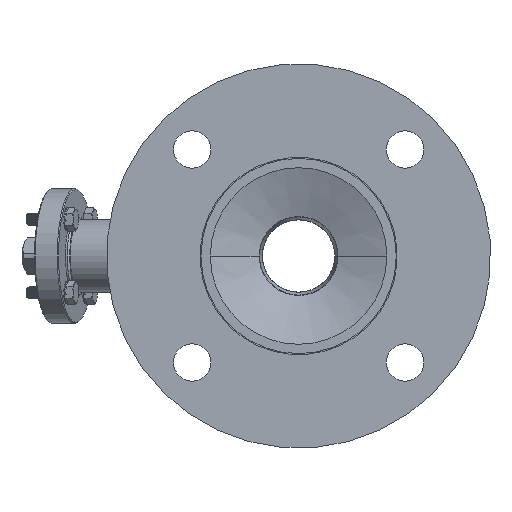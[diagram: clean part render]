
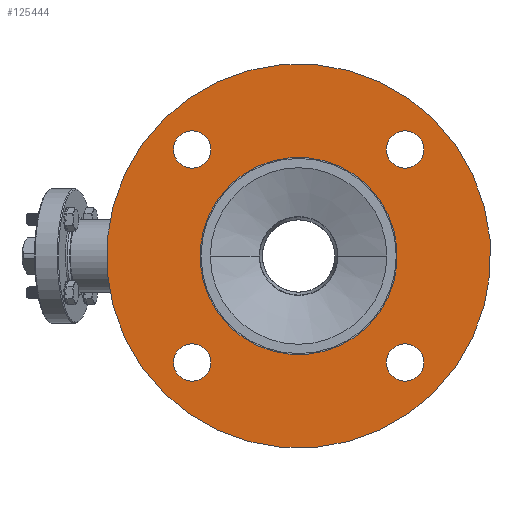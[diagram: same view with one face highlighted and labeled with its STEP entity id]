
A CAD part, left-side view. The second image highlights one B-rep face of the part: STEP entity #125444.
In plain terms, the highlighted planar face has unit normal (-1, 0, 0).
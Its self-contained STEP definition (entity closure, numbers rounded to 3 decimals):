
#43355=CARTESIAN_POINT('',(-30.,0.,0.));
#43356=DIRECTION('',(-1.,0.,0.));
#43357=DIRECTION('',(0.,0.707,-0.707));
#43358=AXIS2_PLACEMENT_3D('',#43355,#43356,#43357);
#43363=CARTESIAN_POINT('',(-30.,0.,0.));
#43364=DIRECTION('',(1.,0.,0.));
#43365=DIRECTION('',(0.,0.707,-0.707));
#43366=AXIS2_PLACEMENT_3D('',#43363,#43364,#43365);
#43371=CARTESIAN_POINT('',(-30.,51.265,-51.265));
#43372=DIRECTION('',(-1.,0.,0.));
#43373=DIRECTION('',(0.,-0.707,0.707));
#43374=AXIS2_PLACEMENT_3D('',#43371,#43372,#43373);
#43379=CARTESIAN_POINT('',(-30.,51.265,-51.265));
#43380=DIRECTION('',(-1.,0.,0.));
#43381=DIRECTION('',(0.,0.707,-0.707));
#43382=AXIS2_PLACEMENT_3D('',#43379,#43380,#43381);
#43387=CARTESIAN_POINT('',(-30.,-51.265,-51.265));
#43388=DIRECTION('',(-1.,0.,0.));
#43389=DIRECTION('',(0.,0.707,0.707));
#43390=AXIS2_PLACEMENT_3D('',#43387,#43388,#43389);
#43395=CARTESIAN_POINT('',(-30.,-51.265,-51.265));
#43396=DIRECTION('',(-1.,0.,0.));
#43397=DIRECTION('',(0.,-0.707,-0.707));
#43398=AXIS2_PLACEMENT_3D('',#43395,#43396,#43397);
#43403=CARTESIAN_POINT('',(-30.,-51.265,51.265));
#43404=DIRECTION('',(-1.,0.,0.));
#43405=DIRECTION('',(0.,0.707,-0.707));
#43406=AXIS2_PLACEMENT_3D('',#43403,#43404,#43405);
#43411=CARTESIAN_POINT('',(-30.,-51.265,51.265));
#43412=DIRECTION('',(-1.,0.,0.));
#43413=DIRECTION('',(0.,-0.707,0.707));
#43414=AXIS2_PLACEMENT_3D('',#43411,#43412,#43413);
#43419=CARTESIAN_POINT('',(-30.,51.265,51.265));
#43420=DIRECTION('',(-1.,0.,0.));
#43421=DIRECTION('',(0.,-0.707,-0.707));
#43422=AXIS2_PLACEMENT_3D('',#43419,#43420,#43421);
#43427=CARTESIAN_POINT('',(-30.,51.265,51.265));
#43428=DIRECTION('',(-1.,0.,0.));
#43429=DIRECTION('',(0.,0.707,0.707));
#43430=AXIS2_PLACEMENT_3D('',#43427,#43428,#43429);
#43442=CARTESIAN_POINT('',(-30.,0.,0.));
#43443=DIRECTION('',(1.,0.,0.));
#43444=DIRECTION('',(0.,0.707,-0.707));
#43445=AXIS2_PLACEMENT_3D('',#43442,#43443,#43444);
#43473=CARTESIAN_POINT('',(-30.,0.,0.));
#43474=DIRECTION('',(-1.,0.,0.));
#43475=DIRECTION('',(0.,0.707,-0.707));
#43476=AXIS2_PLACEMENT_3D('',#43473,#43474,#43475);
#98131=CARTESIAN_POINT('',(-30.,65.407,-65.407));
#98133=VERTEX_POINT('',#98131);
#98135=CARTESIAN_POINT('',(-30.,-65.407,65.407));
#98137=VERTEX_POINT('',#98135);
#98138=CARTESIAN_POINT('',(-30.,33.588,-33.588));
#98139=CARTESIAN_POINT('',(-30.,-33.588,33.588));
#98140=VERTEX_POINT('',#98138);
#98141=VERTEX_POINT('',#98139);
#98142=CARTESIAN_POINT('',(-30.,44.901,-44.901));
#98143=CARTESIAN_POINT('',(-30.,57.629,-57.629));
#98144=VERTEX_POINT('',#98142);
#98145=VERTEX_POINT('',#98143);
#98150=CARTESIAN_POINT('',(-30.,-44.901,-44.901));
#98151=CARTESIAN_POINT('',(-30.,-57.629,-57.629));
#98152=VERTEX_POINT('',#98150);
#98153=VERTEX_POINT('',#98151);
#98158=CARTESIAN_POINT('',(-30.,-44.901,44.901));
#98159=CARTESIAN_POINT('',(-30.,-57.629,57.629));
#98160=VERTEX_POINT('',#98158);
#98161=VERTEX_POINT('',#98159);
#98166=CARTESIAN_POINT('',(-30.,44.901,44.901));
#98167=CARTESIAN_POINT('',(-30.,57.629,57.629));
#98168=VERTEX_POINT('',#98166);
#98169=VERTEX_POINT('',#98167);
#125405=CARTESIAN_POINT('',(-30.,0.,0.));
#125406=DIRECTION('',(-1.,0.,0.));
#125407=DIRECTION('',(0.,0.707,-0.707));
#125408=AXIS2_PLACEMENT_3D('',#125405,#125406,#125407);
#125409=PLANE('',#125408);
#125410=ORIENTED_EDGE('',*,*,#125391,.F.);
#125411=ORIENTED_EDGE('',*,*,#125373,.T.);
#125412=EDGE_LOOP('',(#125410,#125411));
#125413=FACE_OUTER_BOUND('',#125412,.F.);
#125415=ORIENTED_EDGE('',*,*,#125414,.F.);
#125417=ORIENTED_EDGE('',*,*,#125416,.T.);
#125418=EDGE_LOOP('',(#125415,#125417));
#125419=FACE_BOUND('',#125418,.F.);
#125421=ORIENTED_EDGE('',*,*,#125420,.T.);
#125423=ORIENTED_EDGE('',*,*,#125422,.T.);
#125424=EDGE_LOOP('',(#125421,#125423));
#125425=FACE_BOUND('',#125424,.F.);
#125427=ORIENTED_EDGE('',*,*,#125426,.T.);
#125429=ORIENTED_EDGE('',*,*,#125428,.T.);
#125430=EDGE_LOOP('',(#125427,#125429));
#125431=FACE_BOUND('',#125430,.F.);
#125433=ORIENTED_EDGE('',*,*,#125432,.T.);
#125435=ORIENTED_EDGE('',*,*,#125434,.T.);
#125436=EDGE_LOOP('',(#125433,#125435));
#125437=FACE_BOUND('',#125436,.F.);
#125439=ORIENTED_EDGE('',*,*,#125438,.T.);
#125441=ORIENTED_EDGE('',*,*,#125440,.T.);
#125442=EDGE_LOOP('',(#125439,#125441));
#125443=FACE_BOUND('',#125442,.F.);
#125444=ADVANCED_FACE('',(#125413,#125419,#125425,#125431,#125437,#125443),
#125409,.T.);
#43359=CIRCLE('',#43358,92.5);
#43367=CIRCLE('',#43366,92.5);
#43375=CIRCLE('',#43374,9.);
#43383=CIRCLE('',#43382,9.);
#43391=CIRCLE('',#43390,9.);
#43399=CIRCLE('',#43398,9.);
#43407=CIRCLE('',#43406,9.);
#43415=CIRCLE('',#43414,9.);
#43423=CIRCLE('',#43422,9.);
#43431=CIRCLE('',#43430,9.);
#43446=CIRCLE('',#43445,47.5);
#43477=CIRCLE('',#43476,47.5);
#125373=EDGE_CURVE('',#98133,#98137,#43367,.T.);
#125391=EDGE_CURVE('',#98133,#98137,#43359,.T.);
#125414=EDGE_CURVE('',#98140,#98141,#43446,.T.);
#125416=EDGE_CURVE('',#98140,#98141,#43477,.T.);
#125420=EDGE_CURVE('',#98144,#98145,#43375,.T.);
#125422=EDGE_CURVE('',#98145,#98144,#43383,.T.);
#125426=EDGE_CURVE('',#98152,#98153,#43391,.T.);
#125428=EDGE_CURVE('',#98153,#98152,#43399,.T.);
#125432=EDGE_CURVE('',#98160,#98161,#43407,.T.);
#125434=EDGE_CURVE('',#98161,#98160,#43415,.T.);
#125438=EDGE_CURVE('',#98168,#98169,#43423,.T.);
#125440=EDGE_CURVE('',#98169,#98168,#43431,.T.);
